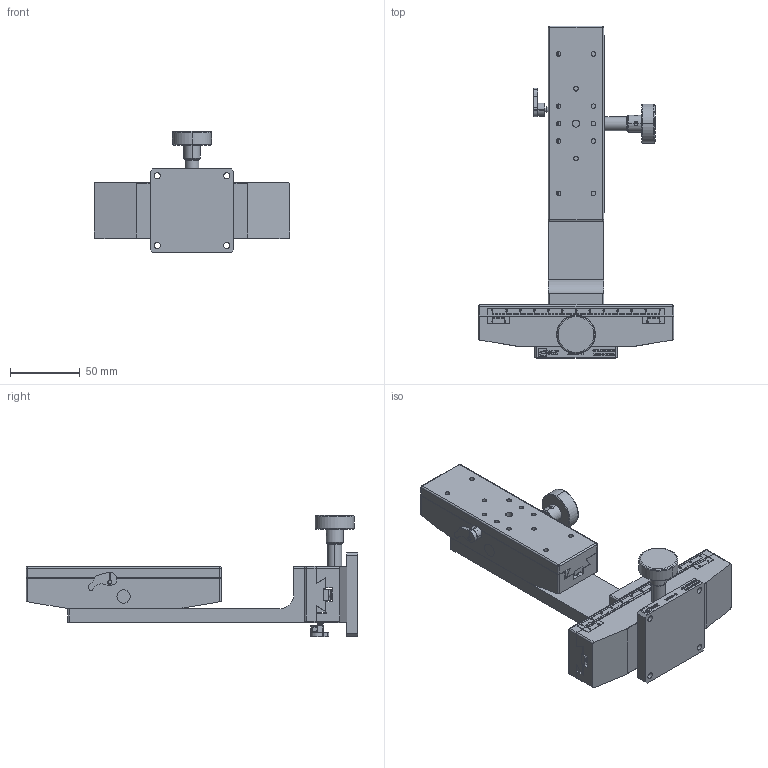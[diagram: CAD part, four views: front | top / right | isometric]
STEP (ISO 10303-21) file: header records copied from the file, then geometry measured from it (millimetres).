
FILE_DESCRIPTION (( 'STEP AP203' ), '1' );
FILE_NAME ('MCM-41L(«¬¿ý).STEP', '2013-10-05T02:56:25', ( '' ), ( '' ), 'SwSTEP 2.0', 'SolidWorks 2013', '' );
FILE_SCHEMA (( 'CONFIG_CONTROL_DESIGN' ));
Length unit declared in the file: millimetre
Products named in the file (5): Group1^MCM-41L(型錄); Group2^MCM-41L(型錄); Group3^MCM-41L(型錄); Group4^MCM-41L(型錄); MCM-41L(型錄)
Assembly tree (4 placements, depth 2):
  MCM-41L(型錄)
    Group1^MCM-41L(型錄)
    Group2^MCM-41L(型錄)
    Group3^MCM-41L(型錄)
    Group4^MCM-41L(型錄)
Bounding box: 140 x 238 x 87.3 mm (x, y, z)
Volume: 436819.4 mm3; surface area: 115218.6 mm2
Topology: 4 solids, 4 shells, 2957 faces, 8116 edges, 5330 vertices
Faces by surface type: plane 2084, bspline 529, cylinder 216, cone 94, torus 18, sphere 16
Entity records: 129235 total; most frequent: CARTESIAN_POINT 56928, ORIENTED_EDGE 16198, DIRECTION 12478, EDGE_CURVE 8099, LINE 6256, VECTOR 6256, VERTEX_POINT 5329, EDGE_LOOP 3176
